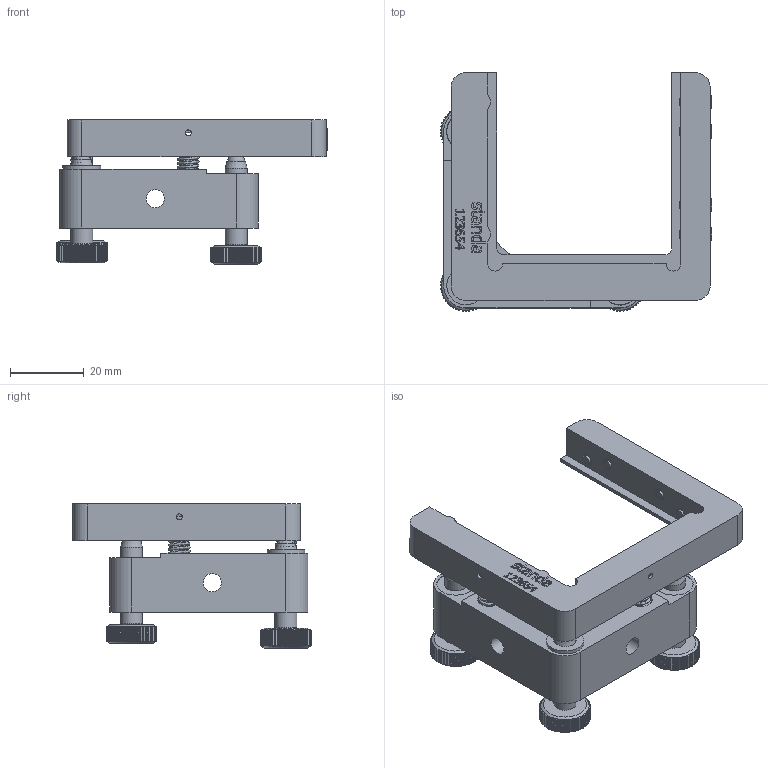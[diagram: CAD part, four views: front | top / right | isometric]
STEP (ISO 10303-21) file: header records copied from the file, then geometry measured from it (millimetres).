
FILE_DESCRIPTION(/* description */ (''),/* implementation_level */ '2;1');
FILE_NAME(/* name */ 'U:\KONSTRUKTORIAI\DOKUMENTACIJA\5\5MBM24\5MBM24-2-3SQ\step\5MBM24-2-3SQ.stp',/* time_stamp */ '2017-03-17T10:59:02+02:00',/* author */ ('dsgn33'),/* organization */ (''),/* preprocessor_version */ 'ST-DEVELOPER v15.2',/* originating_system */ 'Autodesk Inventor 2014',/* authorisation */ '');
FILE_SCHEMA (('AUTOMOTIVE_DESIGN { 1 0 10303 214 3 1 1 }'));
Products named in the file (2): Part2; Assembly1
Bounding box: 73.79 x 64.9 x 39.21 mm (x, y, z)
Volume: 18272.1 mm3; surface area: 19726.2 mm2
Topology: 4 solids, 433 shells, 1810 faces, 5031 edges, 3324 vertices
Faces by surface type: plane 707, cylinder 670, bspline 350, cone 66, sphere 11, torus 6
Full cylindrical faces by diameter (mm): 0.7 x4, 1 x2, 1.5 x3, 1.567 x4, 2 x10, 2.5 x4, 3 x3, 3.1 x3, 3.242 x4, 4 x7, 4.6 x1, 4.763 x3, 4.917 x2, 6 x8, 6.1 x3, 6.5 x6, 7.4 x2, 8.7 x3, 10.3 x3, 10.5 x2, 13.2 x6
Entity records: 66434 total; most frequent: CARTESIAN_POINT 26505, ORIENTED_EDGE 9600, DIRECTION 6171, EDGE_CURVE 4792, VERTEX_POINT 3243, EDGE_LOOP 2065, LINE 2059, VECTOR 2059
